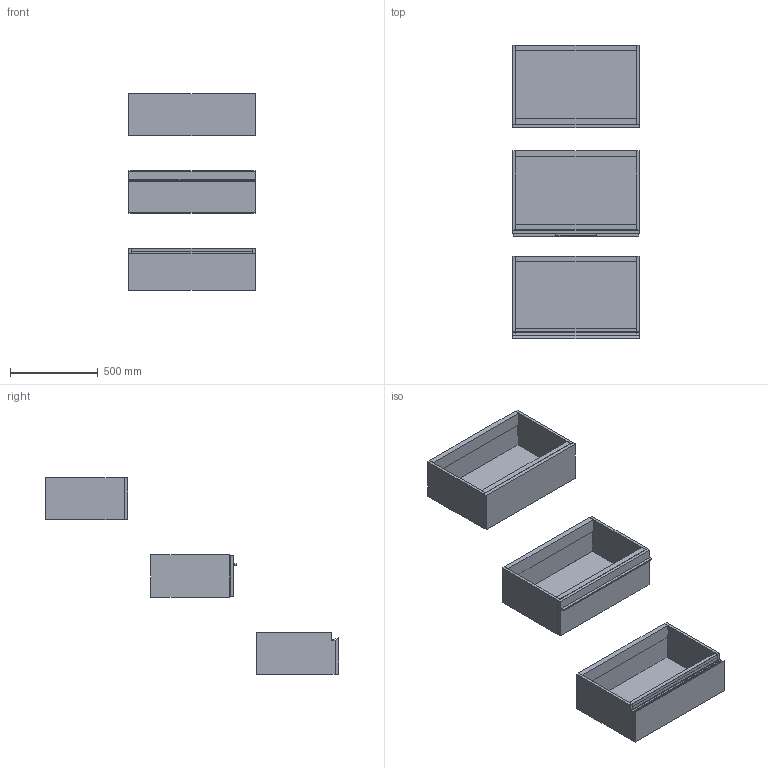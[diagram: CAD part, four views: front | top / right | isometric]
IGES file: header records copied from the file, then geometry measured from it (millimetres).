
Start section: Data from Parasolid IGES Translator 19.0.9, Copyright(c) 2006 Siemens PL M Software. All Rights Reserved.
Global section: file name: noorth-SI-H 24 D 47 W 72_8285.igs; native system: By Siemens PLM Incorporated; preprocessor: XPlus GENERIC/IGES 19.0.9; author: Noname; organization: Noname; date: 20200530.112836; units: metre
Bounding box: 720 x 1669.1 x 1120.01 mm (x, y, z)
Volume: 41720897.9 mm3; surface area: 6123097.9 mm2
Topology: 23 solids, 23 shells, 196 faces, 418 edges, 258 vertices
Faces by surface type: plane 152, extrusion 16, bspline 16, cylinder 12
